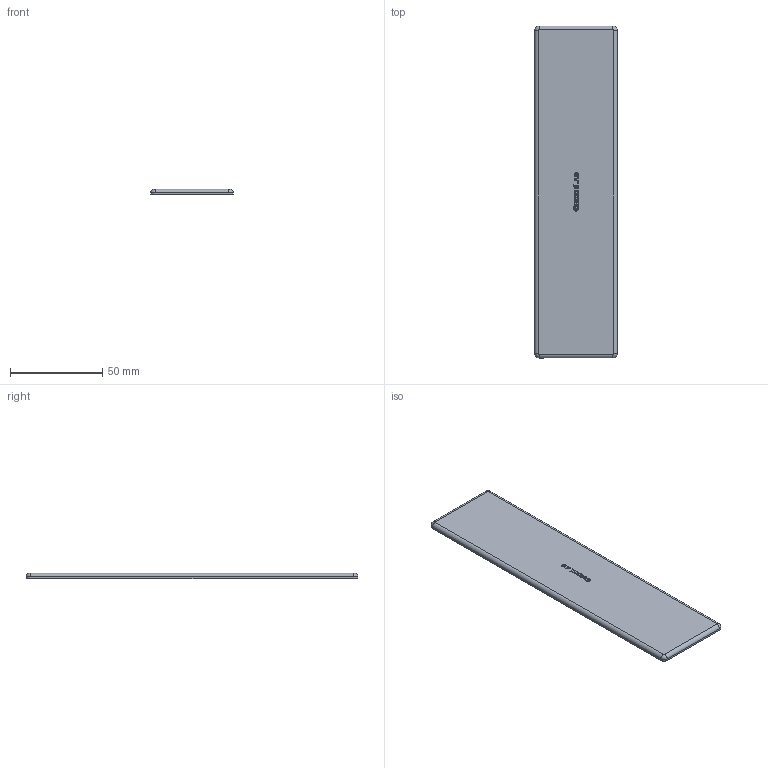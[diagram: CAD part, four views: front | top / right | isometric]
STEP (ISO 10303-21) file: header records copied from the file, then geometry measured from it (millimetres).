
FILE_DESCRIPTION (( 'STEP AP214' ), '1' );
FILE_NAME ('1.1027 Päätysuoja 45X180.STEP', '2025-09-03T08:58:35', ( '' ), ( '' ), 'SwSTEP 2.0', 'SolidWorks 2025', '' );
FILE_SCHEMA (( 'AUTOMOTIVE_DESIGN' ));
Length unit declared in the file: millimetre
Products named in the file (1): 1.1027 Päätysuoja 45X180
Bounding box: 45 x 180 x 3 mm (x, y, z)
Volume: 23893 mm3; surface area: 17195.8 mm2
Topology: 1 solids, 1 shells, 240 faces, 670 edges, 444 vertices
Faces by surface type: plane 143, bspline 85, cylinder 8, torus 4
Entity records: 10295 total; most frequent: CARTESIAN_POINT 4672, ORIENTED_EDGE 1340, DIRECTION 832, EDGE_CURVE 670, LINE 480, VECTOR 480, VERTEX_POINT 444, EDGE_LOOP 252
